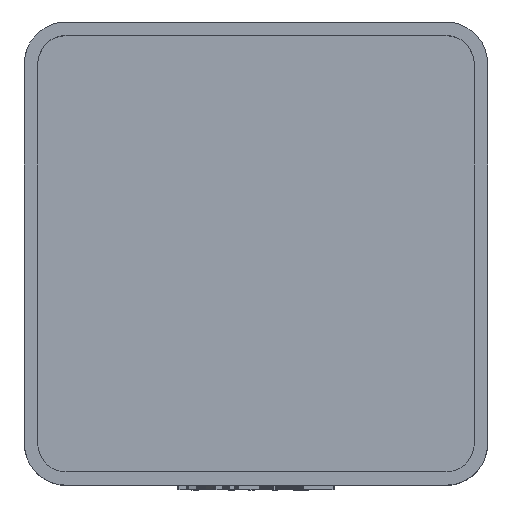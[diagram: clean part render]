
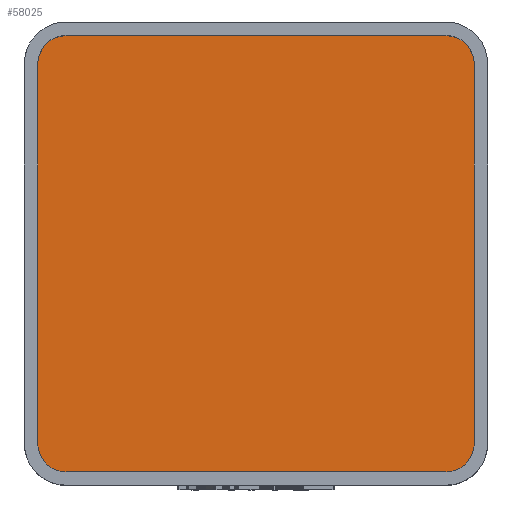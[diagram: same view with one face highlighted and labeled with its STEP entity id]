
A CAD part, top view. The second image highlights one B-rep face of the part: STEP entity #58025.
In plain terms, the highlighted planar face has unit normal (0, 0, 1).
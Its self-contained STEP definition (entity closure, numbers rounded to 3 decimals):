
#1442 = PLANE('',#1443);
#1443 = AXIS2_PLACEMENT_3D('',#1444,#1445,#1446);
#1444 = CARTESIAN_POINT('',(-19.55,-17.,4.75));
#1445 = DIRECTION('',(-1.,0.,0.));
#1446 = DIRECTION('',(0.,1.,0.));
#1474 = CYLINDRICAL_SURFACE('',#1475,2.55);
#1475 = AXIS2_PLACEMENT_3D('',#1476,#1477,#1478);
#1476 = CARTESIAN_POINT('',(-17.,17.,4.75));
#1477 = DIRECTION('',(-0.,-0.,-1.));
#1478 = DIRECTION('',(1.,0.,0.));
#1501 = PLANE('',#1502);
#1502 = AXIS2_PLACEMENT_3D('',#1503,#1504,#1505);
#1503 = CARTESIAN_POINT('',(-17.,19.55,4.75));
#1504 = DIRECTION('',(0.,1.,0.));
#1505 = DIRECTION('',(1.,0.,0.));
#1533 = CYLINDRICAL_SURFACE('',#1534,2.55);
#1534 = AXIS2_PLACEMENT_3D('',#1535,#1536,#1537);
#1535 = CARTESIAN_POINT('',(17.,17.,4.75));
#1536 = DIRECTION('',(-0.,-0.,-1.));
#1537 = DIRECTION('',(1.,0.,0.));
#1560 = PLANE('',#1561);
#1561 = AXIS2_PLACEMENT_3D('',#1562,#1563,#1564);
#1562 = CARTESIAN_POINT('',(19.55,-17.,4.75));
#1563 = DIRECTION('',(-1.,0.,0.));
#1564 = DIRECTION('',(0.,1.,0.));
#1592 = CYLINDRICAL_SURFACE('',#1593,2.55);
#1593 = AXIS2_PLACEMENT_3D('',#1594,#1595,#1596);
#1594 = CARTESIAN_POINT('',(17.,-17.,4.75));
#1595 = DIRECTION('',(-0.,-0.,-1.));
#1596 = DIRECTION('',(1.,0.,0.));
#1619 = PLANE('',#1620);
#1620 = AXIS2_PLACEMENT_3D('',#1621,#1622,#1623);
#1621 = CARTESIAN_POINT('',(-17.,-19.55,4.75));
#1622 = DIRECTION('',(0.,1.,0.));
#1623 = DIRECTION('',(1.,0.,0.));
#1649 = CYLINDRICAL_SURFACE('',#1650,2.55);
#1650 = AXIS2_PLACEMENT_3D('',#1651,#1652,#1653);
#1651 = CARTESIAN_POINT('',(-17.,-17.,4.75));
#1652 = DIRECTION('',(-0.,-0.,-1.));
#1653 = DIRECTION('',(1.,0.,0.));
#21137 = EDGE_CURVE('',#21138,#21140,#21142,.T.);
#21138 = VERTEX_POINT('',#21139);
#21139 = CARTESIAN_POINT('',(-19.55,-17.,4.75));
#21140 = VERTEX_POINT('',#21141);
#21141 = CARTESIAN_POINT('',(-19.55,17.,4.75));
#21142 = SURFACE_CURVE('',#21143,(#21147,#21154),.PCURVE_S1.);
#21143 = LINE('',#21144,#21145);
#21144 = CARTESIAN_POINT('',(-19.55,0.,4.75));
#21145 = VECTOR('',#21146,1.);
#21146 = DIRECTION('',(0.,1.,0.));
#21147 = PCURVE('',#1442,#21148);
#21148 = DEFINITIONAL_REPRESENTATION('',(#21149),#21153);
#21149 = LINE('',#21150,#21151);
#21150 = CARTESIAN_POINT('',(17.,0.));
#21151 = VECTOR('',#21152,1.);
#21152 = DIRECTION('',(1.,0.));
#21153 = ( GEOMETRIC_REPRESENTATION_CONTEXT(2) 
PARAMETRIC_REPRESENTATION_CONTEXT() REPRESENTATION_CONTEXT('2D SPACE',''
  ) );
#21154 = PCURVE('',#21155,#21160);
#21155 = PLANE('',#21156);
#21156 = AXIS2_PLACEMENT_3D('',#21157,#21158,#21159);
#21157 = CARTESIAN_POINT('',(0.,0.,4.75
    ));
#21158 = DIRECTION('',(0.,0.,1.));
#21159 = DIRECTION('',(1.,0.,-0.));
#21160 = DEFINITIONAL_REPRESENTATION('',(#21161),#21165);
#21161 = LINE('',#21162,#21163);
#21162 = CARTESIAN_POINT('',(-19.55,0.));
#21163 = VECTOR('',#21164,1.);
#21164 = DIRECTION('',(0.,1.));
#21165 = ( GEOMETRIC_REPRESENTATION_CONTEXT(2) 
PARAMETRIC_REPRESENTATION_CONTEXT() REPRESENTATION_CONTEXT('2D SPACE',''
  ) );
#21213 = EDGE_CURVE('',#21138,#21214,#21216,.T.);
#21214 = VERTEX_POINT('',#21215);
#21215 = CARTESIAN_POINT('',(-17.,-19.55,4.75));
#21216 = SURFACE_CURVE('',#21217,(#21222,#21229),.PCURVE_S1.);
#21217 = CIRCLE('',#21218,2.55);
#21218 = AXIS2_PLACEMENT_3D('',#21219,#21220,#21221);
#21219 = CARTESIAN_POINT('',(-17.,-17.,4.75));
#21220 = DIRECTION('',(0.,0.,1.));
#21221 = DIRECTION('',(1.,0.,0.));
#21222 = PCURVE('',#1649,#21223);
#21223 = DEFINITIONAL_REPRESENTATION('',(#21224),#21228);
#21224 = LINE('',#21225,#21226);
#21225 = CARTESIAN_POINT('',(-0.,0.));
#21226 = VECTOR('',#21227,1.);
#21227 = DIRECTION('',(-1.,0.));
#21228 = ( GEOMETRIC_REPRESENTATION_CONTEXT(2) 
PARAMETRIC_REPRESENTATION_CONTEXT() REPRESENTATION_CONTEXT('2D SPACE',''
  ) );
#21229 = PCURVE('',#21155,#21230);
#21230 = DEFINITIONAL_REPRESENTATION('',(#21231),#21235);
#21231 = CIRCLE('',#21232,2.55);
#21232 = AXIS2_PLACEMENT_2D('',#21233,#21234);
#21233 = CARTESIAN_POINT('',(-17.,-17.));
#21234 = DIRECTION('',(1.,0.));
#21235 = ( GEOMETRIC_REPRESENTATION_CONTEXT(2) 
PARAMETRIC_REPRESENTATION_CONTEXT() REPRESENTATION_CONTEXT('2D SPACE',''
  ) );
#21263 = EDGE_CURVE('',#21214,#21264,#21266,.T.);
#21264 = VERTEX_POINT('',#21265);
#21265 = CARTESIAN_POINT('',(17.,-19.55,4.75));
#21266 = SURFACE_CURVE('',#21267,(#21271,#21278),.PCURVE_S1.);
#21267 = LINE('',#21268,#21269);
#21268 = CARTESIAN_POINT('',(0.,-19.55,4.75));
#21269 = VECTOR('',#21270,1.);
#21270 = DIRECTION('',(1.,0.,0.));
#21271 = PCURVE('',#1619,#21272);
#21272 = DEFINITIONAL_REPRESENTATION('',(#21273),#21277);
#21273 = LINE('',#21274,#21275);
#21274 = CARTESIAN_POINT('',(17.,0.));
#21275 = VECTOR('',#21276,1.);
#21276 = DIRECTION('',(1.,0.));
#21277 = ( GEOMETRIC_REPRESENTATION_CONTEXT(2) 
PARAMETRIC_REPRESENTATION_CONTEXT() REPRESENTATION_CONTEXT('2D SPACE',''
  ) );
#21278 = PCURVE('',#21155,#21279);
#21279 = DEFINITIONAL_REPRESENTATION('',(#21280),#21284);
#21280 = LINE('',#21281,#21282);
#21281 = CARTESIAN_POINT('',(0.,-19.55));
#21282 = VECTOR('',#21283,1.);
#21283 = DIRECTION('',(1.,0.));
#21284 = ( GEOMETRIC_REPRESENTATION_CONTEXT(2) 
PARAMETRIC_REPRESENTATION_CONTEXT() REPRESENTATION_CONTEXT('2D SPACE',''
  ) );
#21312 = EDGE_CURVE('',#21264,#21313,#21315,.T.);
#21313 = VERTEX_POINT('',#21314);
#21314 = CARTESIAN_POINT('',(19.55,-17.,4.75));
#21315 = SURFACE_CURVE('',#21316,(#21321,#21328),.PCURVE_S1.);
#21316 = CIRCLE('',#21317,2.55);
#21317 = AXIS2_PLACEMENT_3D('',#21318,#21319,#21320);
#21318 = CARTESIAN_POINT('',(17.,-17.,4.75));
#21319 = DIRECTION('',(0.,0.,1.));
#21320 = DIRECTION('',(1.,0.,0.));
#21321 = PCURVE('',#1592,#21322);
#21322 = DEFINITIONAL_REPRESENTATION('',(#21323),#21327);
#21323 = LINE('',#21324,#21325);
#21324 = CARTESIAN_POINT('',(-0.,0.));
#21325 = VECTOR('',#21326,1.);
#21326 = DIRECTION('',(-1.,0.));
#21327 = ( GEOMETRIC_REPRESENTATION_CONTEXT(2) 
PARAMETRIC_REPRESENTATION_CONTEXT() REPRESENTATION_CONTEXT('2D SPACE',''
  ) );
#21328 = PCURVE('',#21155,#21329);
#21329 = DEFINITIONAL_REPRESENTATION('',(#21330),#21334);
#21330 = CIRCLE('',#21331,2.55);
#21331 = AXIS2_PLACEMENT_2D('',#21332,#21333);
#21332 = CARTESIAN_POINT('',(17.,-17.));
#21333 = DIRECTION('',(1.,0.));
#21334 = ( GEOMETRIC_REPRESENTATION_CONTEXT(2) 
PARAMETRIC_REPRESENTATION_CONTEXT() REPRESENTATION_CONTEXT('2D SPACE',''
  ) );
#21362 = EDGE_CURVE('',#21313,#21363,#21365,.T.);
#21363 = VERTEX_POINT('',#21364);
#21364 = CARTESIAN_POINT('',(19.55,17.,4.75));
#21365 = SURFACE_CURVE('',#21366,(#21370,#21377),.PCURVE_S1.);
#21366 = LINE('',#21367,#21368);
#21367 = CARTESIAN_POINT('',(19.55,0.,4.75));
#21368 = VECTOR('',#21369,1.);
#21369 = DIRECTION('',(0.,1.,0.));
#21370 = PCURVE('',#1560,#21371);
#21371 = DEFINITIONAL_REPRESENTATION('',(#21372),#21376);
#21372 = LINE('',#21373,#21374);
#21373 = CARTESIAN_POINT('',(17.,0.));
#21374 = VECTOR('',#21375,1.);
#21375 = DIRECTION('',(1.,0.));
#21376 = ( GEOMETRIC_REPRESENTATION_CONTEXT(2) 
PARAMETRIC_REPRESENTATION_CONTEXT() REPRESENTATION_CONTEXT('2D SPACE',''
  ) );
#21377 = PCURVE('',#21155,#21378);
#21378 = DEFINITIONAL_REPRESENTATION('',(#21379),#21383);
#21379 = LINE('',#21380,#21381);
#21380 = CARTESIAN_POINT('',(19.55,0.));
#21381 = VECTOR('',#21382,1.);
#21382 = DIRECTION('',(0.,1.));
#21383 = ( GEOMETRIC_REPRESENTATION_CONTEXT(2) 
PARAMETRIC_REPRESENTATION_CONTEXT() REPRESENTATION_CONTEXT('2D SPACE',''
  ) );
#21411 = EDGE_CURVE('',#21363,#21412,#21414,.T.);
#21412 = VERTEX_POINT('',#21413);
#21413 = CARTESIAN_POINT('',(17.,19.55,4.75));
#21414 = SURFACE_CURVE('',#21415,(#21420,#21427),.PCURVE_S1.);
#21415 = CIRCLE('',#21416,2.55);
#21416 = AXIS2_PLACEMENT_3D('',#21417,#21418,#21419);
#21417 = CARTESIAN_POINT('',(17.,17.,4.75));
#21418 = DIRECTION('',(0.,0.,1.));
#21419 = DIRECTION('',(1.,0.,0.));
#21420 = PCURVE('',#1533,#21421);
#21421 = DEFINITIONAL_REPRESENTATION('',(#21422),#21426);
#21422 = LINE('',#21423,#21424);
#21423 = CARTESIAN_POINT('',(-0.,0.));
#21424 = VECTOR('',#21425,1.);
#21425 = DIRECTION('',(-1.,0.));
#21426 = ( GEOMETRIC_REPRESENTATION_CONTEXT(2) 
PARAMETRIC_REPRESENTATION_CONTEXT() REPRESENTATION_CONTEXT('2D SPACE',''
  ) );
#21427 = PCURVE('',#21155,#21428);
#21428 = DEFINITIONAL_REPRESENTATION('',(#21429),#21433);
#21429 = CIRCLE('',#21430,2.55);
#21430 = AXIS2_PLACEMENT_2D('',#21431,#21432);
#21431 = CARTESIAN_POINT('',(17.,17.));
#21432 = DIRECTION('',(1.,0.));
#21433 = ( GEOMETRIC_REPRESENTATION_CONTEXT(2) 
PARAMETRIC_REPRESENTATION_CONTEXT() REPRESENTATION_CONTEXT('2D SPACE',''
  ) );
#21461 = EDGE_CURVE('',#21462,#21412,#21464,.T.);
#21462 = VERTEX_POINT('',#21463);
#21463 = CARTESIAN_POINT('',(-17.,19.55,4.75));
#21464 = SURFACE_CURVE('',#21465,(#21469,#21476),.PCURVE_S1.);
#21465 = LINE('',#21466,#21467);
#21466 = CARTESIAN_POINT('',(0.,19.55,4.75));
#21467 = VECTOR('',#21468,1.);
#21468 = DIRECTION('',(1.,0.,0.));
#21469 = PCURVE('',#1501,#21470);
#21470 = DEFINITIONAL_REPRESENTATION('',(#21471),#21475);
#21471 = LINE('',#21472,#21473);
#21472 = CARTESIAN_POINT('',(17.,0.));
#21473 = VECTOR('',#21474,1.);
#21474 = DIRECTION('',(1.,0.));
#21475 = ( GEOMETRIC_REPRESENTATION_CONTEXT(2) 
PARAMETRIC_REPRESENTATION_CONTEXT() REPRESENTATION_CONTEXT('2D SPACE',''
  ) );
#21476 = PCURVE('',#21155,#21477);
#21477 = DEFINITIONAL_REPRESENTATION('',(#21478),#21482);
#21478 = LINE('',#21479,#21480);
#21479 = CARTESIAN_POINT('',(0.,19.55));
#21480 = VECTOR('',#21481,1.);
#21481 = DIRECTION('',(1.,0.));
#21482 = ( GEOMETRIC_REPRESENTATION_CONTEXT(2) 
PARAMETRIC_REPRESENTATION_CONTEXT() REPRESENTATION_CONTEXT('2D SPACE',''
  ) );
#21510 = EDGE_CURVE('',#21462,#21140,#21511,.T.);
#21511 = SURFACE_CURVE('',#21512,(#21517,#21524),.PCURVE_S1.);
#21512 = CIRCLE('',#21513,2.55);
#21513 = AXIS2_PLACEMENT_3D('',#21514,#21515,#21516);
#21514 = CARTESIAN_POINT('',(-17.,17.,4.75));
#21515 = DIRECTION('',(0.,0.,1.));
#21516 = DIRECTION('',(1.,0.,0.));
#21517 = PCURVE('',#1474,#21518);
#21518 = DEFINITIONAL_REPRESENTATION('',(#21519),#21523);
#21519 = LINE('',#21520,#21521);
#21520 = CARTESIAN_POINT('',(-0.,0.));
#21521 = VECTOR('',#21522,1.);
#21522 = DIRECTION('',(-1.,0.));
#21523 = ( GEOMETRIC_REPRESENTATION_CONTEXT(2) 
PARAMETRIC_REPRESENTATION_CONTEXT() REPRESENTATION_CONTEXT('2D SPACE',''
  ) );
#21524 = PCURVE('',#21155,#21525);
#21525 = DEFINITIONAL_REPRESENTATION('',(#21526),#21530);
#21526 = CIRCLE('',#21527,2.55);
#21527 = AXIS2_PLACEMENT_2D('',#21528,#21529);
#21528 = CARTESIAN_POINT('',(-17.,17.));
#21529 = DIRECTION('',(1.,0.));
#21530 = ( GEOMETRIC_REPRESENTATION_CONTEXT(2) 
PARAMETRIC_REPRESENTATION_CONTEXT() REPRESENTATION_CONTEXT('2D SPACE',''
  ) );
#58025 = ADVANCED_FACE('',(#58026),#21155,.T.);
#58026 = FACE_BOUND('',#58027,.T.);
#58027 = EDGE_LOOP('',(#58028,#58029,#58030,#58031,#58032,#58033,#58034,
    #58035));
#58028 = ORIENTED_EDGE('',*,*,#21137,.F.);
#58029 = ORIENTED_EDGE('',*,*,#21213,.T.);
#58030 = ORIENTED_EDGE('',*,*,#21263,.T.);
#58031 = ORIENTED_EDGE('',*,*,#21312,.T.);
#58032 = ORIENTED_EDGE('',*,*,#21362,.T.);
#58033 = ORIENTED_EDGE('',*,*,#21411,.T.);
#58034 = ORIENTED_EDGE('',*,*,#21461,.F.);
#58035 = ORIENTED_EDGE('',*,*,#21510,.T.);
